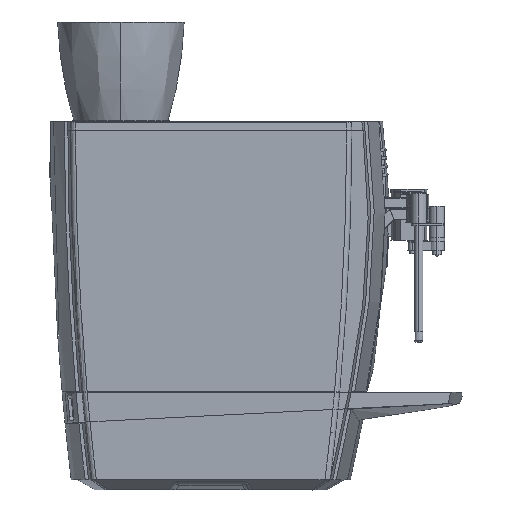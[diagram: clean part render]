
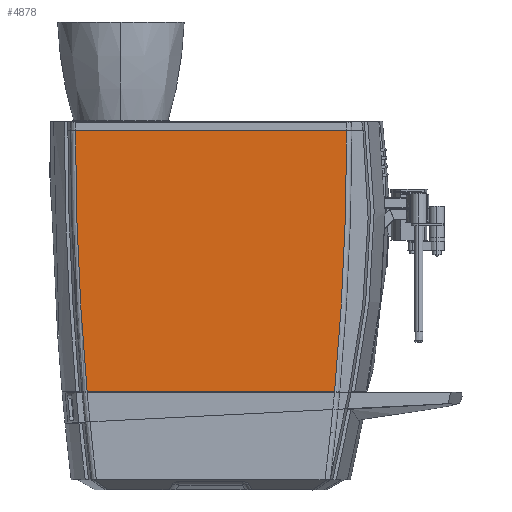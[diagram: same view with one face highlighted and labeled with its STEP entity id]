
A CAD part, left-side view. The second image highlights one B-rep face of the part: STEP entity #4878.
In plain terms, the highlighted planar face has unit normal (-1, 0, 0).
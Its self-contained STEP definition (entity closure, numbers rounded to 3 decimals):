
#1210=CIRCLE('',#33545,3375.529);
#1251=CIRCLE('',#33605,3522.06);
#4878=ADVANCED_FACE('',(#7147),#5865,.F.);
#5865=PLANE('',#33639);
#7147=FACE_OUTER_BOUND('',#8965,.T.);
#8965=EDGE_LOOP('',(#19979,#19980,#19981,#19982));
#11187=LINE('',#76198,#12656);
#11205=LINE('',#76641,#12674);
#12656=VECTOR('',#38920,1.);
#12674=VECTOR('',#38970,1.);
#19979=ORIENTED_EDGE('',*,*,#29150,.F.);
#19980=ORIENTED_EDGE('',*,*,#29058,.F.);
#19981=ORIENTED_EDGE('',*,*,#29183,.F.);
#19982=ORIENTED_EDGE('',*,*,#29141,.F.);
#24852=VERTEX_POINT('',#75846);
#24853=VERTEX_POINT('',#75848);
#24915=VERTEX_POINT('',#76167);
#24916=VERTEX_POINT('',#76169);
#29058=EDGE_CURVE('',#24852,#24853,#1210,.T.);
#29141=EDGE_CURVE('',#24915,#24916,#1251,.T.);
#29150=EDGE_CURVE('',#24853,#24915,#11187,.T.);
#29183=EDGE_CURVE('',#24916,#24852,#11205,.T.);
#33545=AXIS2_PLACEMENT_3D('',#75847,#38766,#38767);
#33605=AXIS2_PLACEMENT_3D('',#76168,#38908,#38909);
#33639=AXIS2_PLACEMENT_3D('',#77214,#39007,#39008);
#38766=DIRECTION('',(1.,0.,0.));
#38767=DIRECTION('',(0.,0.,-1.));
#38908=DIRECTION('',(1.,0.,0.));
#38909=DIRECTION('',(0.,0.,-1.));
#38920=DIRECTION('',(0.,1.,0.));
#38970=DIRECTION('',(0.,-1.,0.));
#39007=DIRECTION('',(1.,0.,0.));
#39008=DIRECTION('',(0.,-1.,0.));
#75846=CARTESIAN_POINT('',(-240.,49.633,349.));
#75847=CARTESIAN_POINT('',(-240.,3425.161,349.));
#75848=CARTESIAN_POINT('',(-240.,64.222,35.5));
#76167=CARTESIAN_POINT('',(-240.,361.58,35.5));
#76168=CARTESIAN_POINT('',(-240.,-3146.5,349.));
#76169=CARTESIAN_POINT('',(-240.,375.56,349.));
#76198=CARTESIAN_POINT('',(-240.,-172.298,35.5));
#76641=CARTESIAN_POINT('',(-240.,381.76,349.));
#77214=CARTESIAN_POINT('',(-240.,-194.595,1149.));
